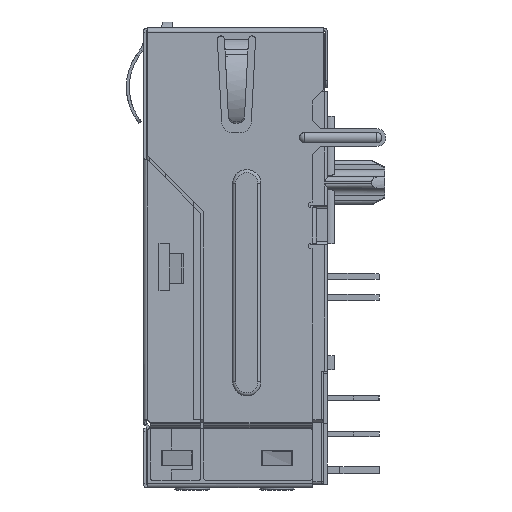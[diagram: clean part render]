
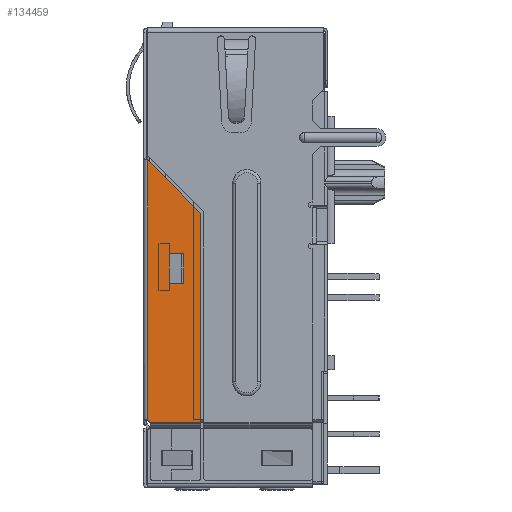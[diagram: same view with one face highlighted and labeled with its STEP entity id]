
A CAD part, left-side view. The second image highlights one B-rep face of the part: STEP entity #134459.
In plain terms, the highlighted planar face has unit normal (-1, -0.018, 0).
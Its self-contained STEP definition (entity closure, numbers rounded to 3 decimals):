
#2672=DIRECTION('',(0.,0.,-1.));
#2673=VECTOR('',#2672,14.789);
#2674=CARTESIAN_POINT('',(-29.074,-3.818,
-12.833));
#2675=LINE('',#2674,#2673);
#2756=CARTESIAN_POINT('',(-29.142,0.104,-27.75));
#2757=DIRECTION('',(1.,0.017,0.));
#2758=DIRECTION('',(0.008,-0.454,0.891));
#2759=AXIS2_PLACEMENT_3D('',#2756,#2757,#2758);
#2761=DIRECTION('',(-0.012,0.707,0.707));
#2762=VECTOR('',#2761,5.323);
#2763=CARTESIAN_POINT('',(-29.074,-3.818,
-12.833));
#2764=LINE('',#2763,#2762);
#91428=DIRECTION('',(0.017,-1.,0.));
#91429=VECTOR('',#91428,3.597);
#91430=CARTESIAN_POINT('',(-29.136,-0.222,
-27.621));
#91431=LINE('',#91430,#91429);
#95506=DIRECTION('',(0.,0.,-1.));
#95507=VECTOR('',#95506,18.369);
#95508=CARTESIAN_POINT('',(-29.139,-0.055,
-9.069));
#95509=LINE('',#95508,#95507);
#95514=DIRECTION('',(0.017,-1.,0.));
#95515=VECTOR('',#95514,1.01);
#95516=CARTESIAN_POINT('',(-29.112,-1.595,-15.7));
#95517=LINE('',#95516,#95515);
#95522=DIRECTION('',(0.,0.,-1.));
#95523=VECTOR('',#95522,2.1);
#95524=CARTESIAN_POINT('',(-29.112,-1.595,-15.7));
#95525=LINE('',#95524,#95523);
#95534=DIRECTION('',(0.,0.,1.));
#95535=VECTOR('',#95534,2.1);
#95536=CARTESIAN_POINT('',(-29.095,-2.605,-17.8));
#95537=LINE('',#95536,#95535);
#95546=DIRECTION('',(0.017,-1.,0.));
#95547=VECTOR('',#95546,1.01);
#95548=CARTESIAN_POINT('',(-29.112,-1.595,-17.8));
#95549=LINE('',#95548,#95547);
#104877=CARTESIAN_POINT('',(-29.139,-0.055,
-27.438));
#104879=VERTEX_POINT('',#104877);
#104883=CARTESIAN_POINT('',(-29.136,-0.222,
-27.621));
#104884=VERTEX_POINT('',#104883);
#104885=CARTESIAN_POINT('',(-29.139,-0.055,
-9.069));
#104886=VERTEX_POINT('',#104885);
#104887=CARTESIAN_POINT('',(-29.074,-3.818,
-12.833));
#104888=VERTEX_POINT('',#104887);
#104889=CARTESIAN_POINT('',(-29.074,-3.818,
-27.621));
#104890=VERTEX_POINT('',#104889);
#104891=CARTESIAN_POINT('',(-29.112,-1.595,-15.7));
#104892=CARTESIAN_POINT('',(-29.095,-2.605,-15.7));
#104893=VERTEX_POINT('',#104891);
#104894=VERTEX_POINT('',#104892);
#104895=CARTESIAN_POINT('',(-29.112,-1.595,-17.8));
#104896=VERTEX_POINT('',#104895);
#104897=CARTESIAN_POINT('',(-29.095,-2.605,-17.8));
#104898=VERTEX_POINT('',#104897);
#134434=CARTESIAN_POINT('',(-29.106,-1.937,
-18.345));
#134435=DIRECTION('',(1.,0.017,0.));
#134436=DIRECTION('',(0.017,-1.,0.));
#134437=AXIS2_PLACEMENT_3D('',#134434,#134435,#134436);
#134438=PLANE('',#134437);
#134440=ORIENTED_EDGE('',*,*,#134439,.F.);
#134442=ORIENTED_EDGE('',*,*,#134441,.F.);
#134443=ORIENTED_EDGE('',*,*,#134420,.F.);
#134444=ORIENTED_EDGE('',*,*,#134290,.T.);
#134446=ORIENTED_EDGE('',*,*,#134445,.F.);
#134447=EDGE_LOOP('',(#134440,#134442,#134443,#134444,#134446));
#134448=FACE_OUTER_BOUND('',#134447,.F.);
#134450=ORIENTED_EDGE('',*,*,#134449,.F.);
#134452=ORIENTED_EDGE('',*,*,#134451,.T.);
#134454=ORIENTED_EDGE('',*,*,#134453,.T.);
#134456=ORIENTED_EDGE('',*,*,#134455,.T.);
#134457=EDGE_LOOP('',(#134450,#134452,#134454,#134456));
#134458=FACE_BOUND('',#134457,.F.);
#2760=CIRCLE('',#2759,0.35);
#134290=EDGE_CURVE('',#104888,#104890,#2675,.T.);
#134420=EDGE_CURVE('',#104888,#104886,#2764,.T.);
#134439=EDGE_CURVE('',#104879,#104884,#2760,.T.);
#134441=EDGE_CURVE('',#104886,#104879,#95509,.T.);
#134445=EDGE_CURVE('',#104884,#104890,#91431,.T.);
#134449=EDGE_CURVE('',#104893,#104894,#95517,.T.);
#134451=EDGE_CURVE('',#104893,#104896,#95525,.T.);
#134453=EDGE_CURVE('',#104896,#104898,#95549,.T.);
#134455=EDGE_CURVE('',#104898,#104894,#95537,.T.);
#134459=ADVANCED_FACE('',(#134448,#134458),#134438,.F.);
